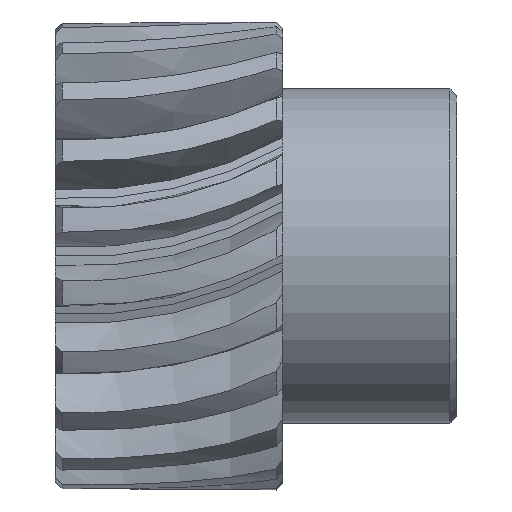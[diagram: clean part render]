
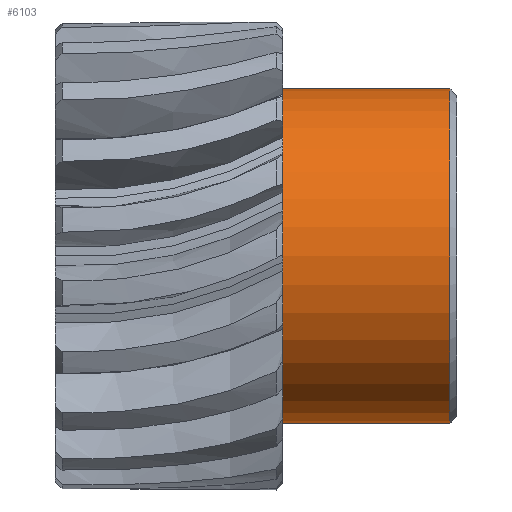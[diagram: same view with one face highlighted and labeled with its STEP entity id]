
A CAD part, front view. The second image highlights one B-rep face of the part: STEP entity #6103.
In plain terms, the highlighted cylindrical face has radius 12.5 mm (diameter 25 mm), a full revolution.
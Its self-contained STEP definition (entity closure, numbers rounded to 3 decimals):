
#156=CYLINDRICAL_SURFACE('',#6603,12.5);
#458=CIRCLE('',#6601,12.5);
#460=CIRCLE('',#6604,12.5);
#481=FACE_BOUND('',#1209,.T.);
#861=FACE_OUTER_BOUND('',#1208,.T.);
#1208=EDGE_LOOP('',(#5533));
#1209=EDGE_LOOP('',(#5534));
#2856=VERTEX_POINT('',#11847);
#2858=VERTEX_POINT('',#11852);
#3783=EDGE_CURVE('',#2856,#2856,#458,.T.);
#3785=EDGE_CURVE('',#2858,#2858,#460,.T.);
#5533=ORIENTED_EDGE('',*,*,#3785,.F.);
#5534=ORIENTED_EDGE('',*,*,#3783,.F.);
#6103=ADVANCED_FACE('',(#861,#481),#156,.T.);
#6601=AXIS2_PLACEMENT_3D('',#11848,#7993,#7994);
#6603=AXIS2_PLACEMENT_3D('',#11851,#7997,#7998);
#6604=AXIS2_PLACEMENT_3D('',#11853,#7999,#8000);
#7993=DIRECTION('center_axis',(1.,0.,0.));
#7994=DIRECTION('ref_axis',(0.,0.,1.));
#7997=DIRECTION('center_axis',(1.,0.,0.));
#7998=DIRECTION('ref_axis',(0.,0.,1.));
#7999=DIRECTION('center_axis',(-1.,0.,0.));
#8000=DIRECTION('ref_axis',(0.,0.,1.));
#11847=CARTESIAN_POINT('',(29.5,0.,-12.5));
#11848=CARTESIAN_POINT('Origin',(29.5,0.,0.));
#11851=CARTESIAN_POINT('Origin',(17.,0.,0.));
#11852=CARTESIAN_POINT('',(17.,0.,-12.5));
#11853=CARTESIAN_POINT('Origin',(17.,0.,0.));
